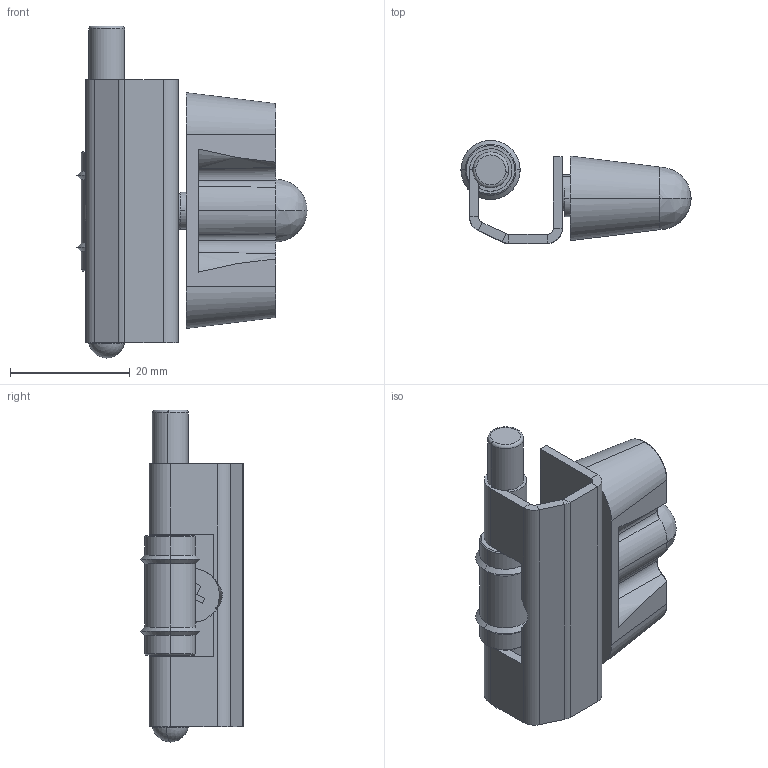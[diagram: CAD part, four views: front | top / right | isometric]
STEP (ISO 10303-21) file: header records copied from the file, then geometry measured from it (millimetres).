
FILE_DESCRIPTION (( 'STEP AP214' ), '1' );
FILE_NAME ('3.ST32.001.STEP', '2010-03-10T17:43:14', ( '£ukaszC' ), ( '' ), 'SwSTEP 2.0', 'SolidWorks 2008', '' );
FILE_SCHEMA (( 'AUTOMOTIVE_DESIGN' ));
Length unit declared in the file: millimetre
Products named in the file (7): 3B.St32.03.00.00_Domyœlna; WKRÊT_Domyœlna; 3B.ST32.02.00.00; 3.ST32.001; 3B.St32.04.00.00_Domyœlna; 3B.St32.05.00.00_Domyœlna; 3B.ST32.01.00.00_Domyœlna
Assembly tree (6 placements, depth 2):
  3.ST32.001
    3B.St32.03.00.00_Domyœlna
    3B.St32.05.00.00_Domyœlna
    WKRÊT_Domyœlna
    3B.ST32.02.00.00
    3B.ST32.01.00.00_Domyœlna
    3B.St32.04.00.00_Domyœlna
Bounding box: 38.47 x 17.24 x 55.51 mm (x, y, z)
Volume: 9802.6 mm3; surface area: 9325.8 mm2
Topology: 6 solids, 6 shells, 261 faces, 584 edges, 340 vertices
Faces by surface type: plane 70, bspline 69, cylinder 62, cone 54, torus 4, sphere 2
Entity records: 8350 total; most frequent: CARTESIAN_POINT 2986, ORIENTED_EDGE 1160, DIRECTION 979, EDGE_CURVE 580, AXIS2_PLACEMENT_3D 357, VERTEX_POINT 340, EDGE_LOOP 274, VECTOR 265
